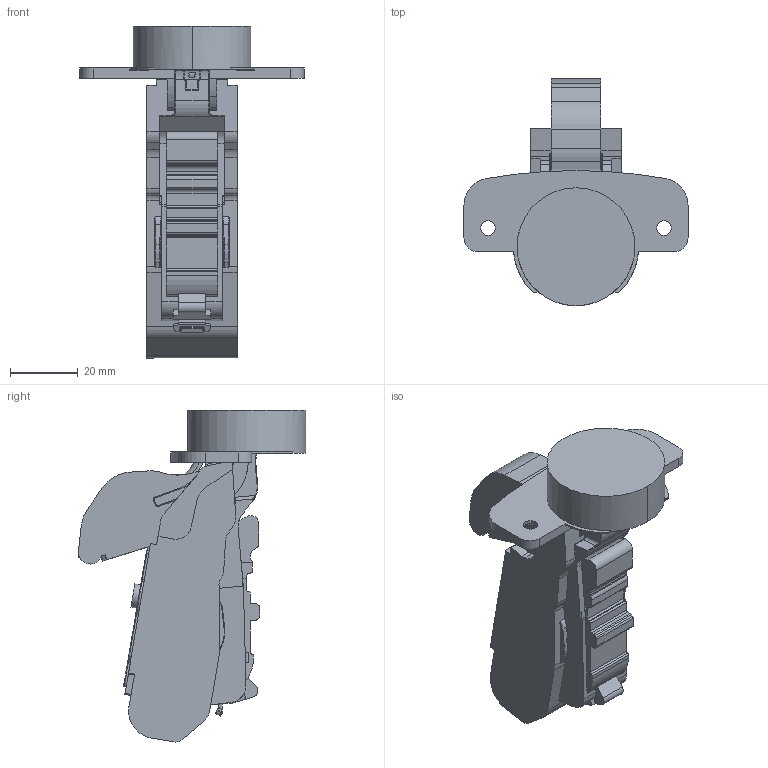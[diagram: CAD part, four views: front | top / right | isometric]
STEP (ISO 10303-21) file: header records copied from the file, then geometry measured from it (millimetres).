
FILE_DESCRIPTION (( 'STEP AP203' ), '1' );
FILE_NAME ('C81A807FAB DTC 3D CLOSE.STEP', '2024-07-30T01:58:36', ( '微软用户' ), ( '微软中国' ), 'SwSTEP 2.0', 'SolidWorks 2021', '' );
FILE_SCHEMA (( 'CONFIG_CONTROL_DESIGN' ));
Length unit declared in the file: millimetre
Products named in the file (1): C81A807FAB DTC 3D CLOSE
Bounding box: 66.2 x 67.21 x 98.04 mm (x, y, z)
Volume: 80695.2 mm3; surface area: 18780.7 mm2
Topology: 1 solids, 9 shells, 704 faces, 1933 edges, 1250 vertices
Faces by surface type: plane 305, cylinder 285, torus 87, bspline 16, sphere 7, cone 4
Entity records: 23719 total; most frequent: CARTESIAN_POINT 5679, ORIENTED_EDGE 3862, DIRECTION 3781, EDGE_CURVE 1931, AXIS2_PLACEMENT_3D 1344, VERTEX_POINT 1250, LINE 1093, VECTOR 1093
